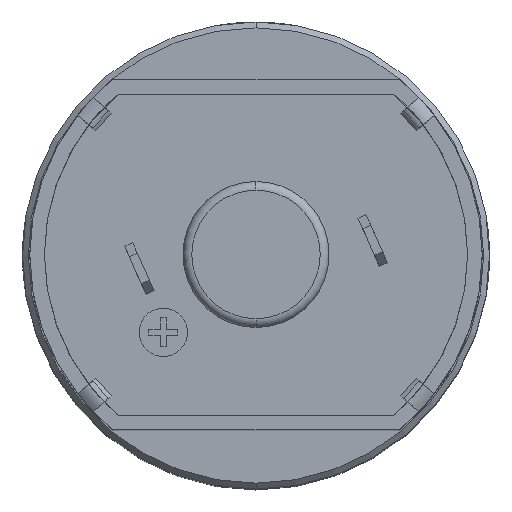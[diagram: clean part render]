
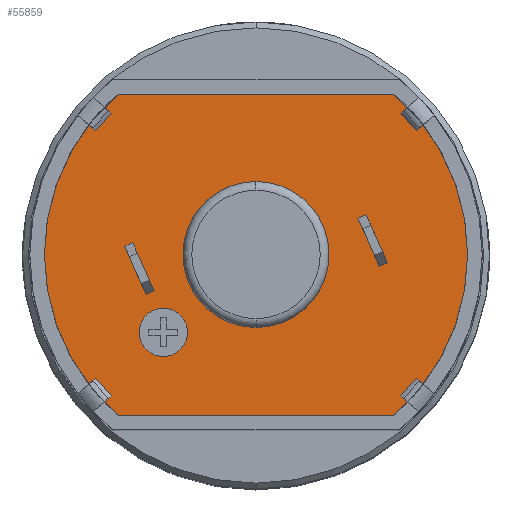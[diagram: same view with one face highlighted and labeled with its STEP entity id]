
A CAD part, top view. The second image highlights one B-rep face of the part: STEP entity #55859.
In plain terms, the highlighted planar face has unit normal (0, 0, 1) as drawn and (0, 1, 0) by its records, which use the part's own axes.
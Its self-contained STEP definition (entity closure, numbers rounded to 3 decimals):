
#238 = CARTESIAN_POINT ( 'NONE',  ( -4.5, 0.5, -0.278 ) ) ;
#1867 = EDGE_CURVE ( 'NONE', #37556, #107896, #15914, .T. ) ;
#1900 = VECTOR ( 'NONE', #14220, 1000. ) ;
#2009 = ORIENTED_EDGE ( 'NONE', *, *, #28465, .F. ) ;
#3257 = ORIENTED_EDGE ( 'NONE', *, *, #21699, .F. ) ;
#3622 = VERTEX_POINT ( 'NONE', #9445 ) ;
#4152 = EDGE_CURVE ( 'NONE', #52164, #105886, #51375, .T. ) ;
#5754 = EDGE_CURVE ( 'NONE', #104323, #25168, #31706, .T. ) ;
#6204 = ORIENTED_EDGE ( 'NONE', *, *, #85957, .F. ) ;
#9056 = FACE_BOUND ( 'NONE', #31693, .T. ) ;
#9247 = LINE ( 'NONE', #238, #80210 ) ;
#9283 = VECTOR ( 'NONE', #41483, 1000. ) ;
#9323 = CARTESIAN_POINT ( 'NONE',  ( -4.226, 0.5, -0.4 ) ) ;
#9445 = CARTESIAN_POINT ( 'NONE',  ( 4.226, 0.5, 0.4 ) ) ;
#13327 = AXIS2_PLACEMENT_3D ( 'NONE', #84022, #51648, #77731 ) ;
#14006 = VERTEX_POINT ( 'NONE', #70603 ) ;
#14220 = DIRECTION ( 'NONE',  ( 0.914, 0., -0.407 ) ) ;
#15439 = DIRECTION ( 'NONE',  ( -0.914, 0., 0.407 ) ) ;
#15615 = VERTEX_POINT ( 'NONE', #39598 ) ;
#15630 = CARTESIAN_POINT ( 'NONE',  ( -3.768, 0.5, 1.366 ) ) ;
#15914 = LINE ( 'NONE', #92412, #43141 ) ;
#16413 = ORIENTED_EDGE ( 'NONE', *, *, #39210, .F. ) ;
#17263 = LINE ( 'NONE', #67143, #55213 ) ;
#20281 = CIRCLE ( 'NONE', #74537, 0.83 ) ;
#20910 = CIRCLE ( 'NONE', #75199, 0.83 ) ;
#21331 = ORIENTED_EDGE ( 'NONE', *, *, #23597, .F. ) ;
#21699 = EDGE_CURVE ( 'NONE', #43101, #104323, #49429, .T. ) ;
#22792 = CARTESIAN_POINT ( 'NONE',  ( 3.768, 0.5, -1.366 ) ) ;
#23550 = CARTESIAN_POINT ( 'NONE',  ( -3.175, 0.5, 1.834 ) ) ;
#23597 = EDGE_CURVE ( 'NONE', #25168, #15615, #9247, .T. ) ;
#25168 = VERTEX_POINT ( 'NONE', #104868 ) ;
#25620 = CARTESIAN_POINT ( 'NONE',  ( -3.494, 0.5, 1.244 ) ) ;
#25663 = DIRECTION ( 'NONE',  ( 0.407, 0., 0.914 ) ) ;
#25735 = CARTESIAN_POINT ( 'NONE',  ( 4.5, 0.5, 0.278 ) ) ;
#26056 = EDGE_CURVE ( 'NONE', #105886, #37556, #110976, .T. ) ;
#26506 = ORIENTED_EDGE ( 'NONE', *, *, #95951, .F. ) ;
#26668 = CARTESIAN_POINT ( 'NONE',  ( 0., 0.5, 0. ) ) ;
#27212 = ORIENTED_EDGE ( 'NONE', *, *, #109010, .F. ) ;
#27749 = DIRECTION ( 'NONE',  ( 0., 0., 1. ) ) ;
#28465 = EDGE_CURVE ( 'NONE', #14006, #57405, #20281, .T. ) ;
#29356 = DIRECTION ( 'NONE',  ( 0., 0., 1. ) ) ;
#29841 = EDGE_CURVE ( 'NONE', #107896, #52164, #105507, .T. ) ;
#31122 = ORIENTED_EDGE ( 'NONE', *, *, #87055, .F. ) ;
#31693 = EDGE_LOOP ( 'NONE', ( #73619, #16413, #27212, #26506 ) ) ;
#31706 = LINE ( 'NONE', #74781, #73966 ) ;
#31712 = VECTOR ( 'NONE', #42888, 1000. ) ;
#34424 = ORIENTED_EDGE ( 'NONE', *, *, #4152, .T. ) ;
#34982 = VECTOR ( 'NONE', #50136, 1000. ) ;
#35042 = DIRECTION ( 'NONE',  ( 0., 0., 1. ) ) ;
#35879 = CARTESIAN_POINT ( 'NONE',  ( -4.724, 0.5, 5.5 ) ) ;
#37556 = VERTEX_POINT ( 'NONE', #102216 ) ;
#38395 = EDGE_LOOP ( 'NONE', ( #44669, #34424, #74847, #110091 ) ) ;
#38827 = LINE ( 'NONE', #48998, #95508 ) ;
#38924 = VECTOR ( 'NONE', #15439, 1000. ) ;
#39210 = EDGE_CURVE ( 'NONE', #45236, #108360, #48806, .T. ) ;
#39598 = CARTESIAN_POINT ( 'NONE',  ( -3.768, 0.5, 1.366 ) ) ;
#40424 = AXIS2_PLACEMENT_3D ( 'NONE', #26668, #96902, #71944 ) ;
#41483 = DIRECTION ( 'NONE',  ( -0.407, 0., -0.914 ) ) ;
#42029 = DIRECTION ( 'NONE',  ( 0., 1., 0. ) ) ;
#42888 = DIRECTION ( 'NONE',  ( 1., 0., 0. ) ) ;
#43101 = VERTEX_POINT ( 'NONE', #74304 ) ;
#43141 = VECTOR ( 'NONE', #51559, 1000. ) ;
#44669 = ORIENTED_EDGE ( 'NONE', *, *, #29841, .T. ) ;
#44703 = FACE_OUTER_BOUND ( 'NONE', #38395, .T. ) ;
#45236 = VERTEX_POINT ( 'NONE', #22792 ) ;
#45933 = CARTESIAN_POINT ( 'NONE',  ( -4.724, 0.5, -5.5 ) ) ;
#46331 = DIRECTION ( 'NONE',  ( 0., 1., 0. ) ) ;
#47484 = AXIS2_PLACEMENT_3D ( 'NONE', #61667, #46331, #54267 ) ;
#48112 = ORIENTED_EDGE ( 'NONE', *, *, #63544, .F. ) ;
#48501 = VERTEX_POINT ( 'NONE', #90552 ) ;
#48806 = LINE ( 'NONE', #65886, #38924 ) ;
#48998 = CARTESIAN_POINT ( 'NONE',  ( 4.5, 0.5, 0.278 ) ) ;
#49429 = LINE ( 'NONE', #25620, #9283 ) ;
#50136 = DIRECTION ( 'NONE',  ( 0.914, 0., -0.407 ) ) ;
#50964 = CARTESIAN_POINT ( 'NONE',  ( 0., 0.5, 2.5 ) ) ;
#51375 = LINE ( 'NONE', #86021, #31712 ) ;
#51559 = DIRECTION ( 'NONE',  ( -1., 0., 0. ) ) ;
#51574 = CARTESIAN_POINT ( 'NONE',  ( -3.175, 0.5, 2.664 ) ) ;
#51648 = DIRECTION ( 'NONE',  ( 0., 1., 0. ) ) ;
#52164 = VERTEX_POINT ( 'NONE', #35879 ) ;
#54267 = DIRECTION ( 'NONE',  ( 0., 0., 1. ) ) ;
#55213 = VECTOR ( 'NONE', #110707, 1000. ) ;
#55859 = ADVANCED_FACE ( 'NONE', ( #60650, #95187, #44703, #9056, #78150 ), #59500, .T. ) ;
#57405 = VERTEX_POINT ( 'NONE', #23550 ) ;
#59500 = PLANE ( 'NONE',  #62345 ) ;
#60067 = CARTESIAN_POINT ( 'NONE',  ( 0., 0.5, 0. ) ) ;
#60650 = FACE_BOUND ( 'NONE', #65850, .T. ) ;
#61667 = CARTESIAN_POINT ( 'NONE',  ( 0., 0.5, 0. ) ) ;
#62345 = AXIS2_PLACEMENT_3D ( 'NONE', #60067, #96269, #35042 ) ;
#63242 = EDGE_LOOP ( 'NONE', ( #6204, #48112 ) ) ;
#63544 = EDGE_CURVE ( 'NONE', #75004, #48501, #101792, .T. ) ;
#65850 = EDGE_LOOP ( 'NONE', ( #73178, #2009 ) ) ;
#65886 = CARTESIAN_POINT ( 'NONE',  ( 3.768, 0.5, -1.366 ) ) ;
#67143 = CARTESIAN_POINT ( 'NONE',  ( 3.494, 0.5, -1.244 ) ) ;
#67418 = DIRECTION ( 'NONE',  ( -0.914, 0., 0.407 ) ) ;
#69132 = EDGE_CURVE ( 'NONE', #57405, #14006, #20910, .T. ) ;
#70227 = DIRECTION ( 'NONE',  ( 0., 1., 0. ) ) ;
#70603 = CARTESIAN_POINT ( 'NONE',  ( -3.175, 0.5, 3.494 ) ) ;
#71933 = DIRECTION ( 'NONE',  ( 0., 1., 0. ) ) ;
#71944 = DIRECTION ( 'NONE',  ( 0., 0., 1. ) ) ;
#73178 = ORIENTED_EDGE ( 'NONE', *, *, #69132, .F. ) ;
#73619 = ORIENTED_EDGE ( 'NONE', *, *, #80052, .F. ) ;
#73966 = VECTOR ( 'NONE', #67418, 1000. ) ;
#74304 = CARTESIAN_POINT ( 'NONE',  ( -3.494, 0.5, 1.244 ) ) ;
#74537 = AXIS2_PLACEMENT_3D ( 'NONE', #51574, #71933, #27749 ) ;
#74781 = CARTESIAN_POINT ( 'NONE',  ( -4.226, 0.5, -0.4 ) ) ;
#74847 = ORIENTED_EDGE ( 'NONE', *, *, #26056, .T. ) ;
#75004 = VERTEX_POINT ( 'NONE', #50964 ) ;
#75199 = AXIS2_PLACEMENT_3D ( 'NONE', #105867, #70227, #29356 ) ;
#76232 = CARTESIAN_POINT ( 'NONE',  ( 4.724, 0.5, 5.5 ) ) ;
#77731 = DIRECTION ( 'NONE',  ( 0., 0., 1. ) ) ;
#78150 = FACE_BOUND ( 'NONE', #84889, .T. ) ;
#80052 = EDGE_CURVE ( 'NONE', #108360, #3622, #17263, .T. ) ;
#80210 = VECTOR ( 'NONE', #25663, 1000. ) ;
#83298 = CARTESIAN_POINT ( 'NONE',  ( 4.226, 0.5, 0.4 ) ) ;
#84022 = CARTESIAN_POINT ( 'NONE',  ( 0., 0.5, 0. ) ) ;
#84889 = EDGE_LOOP ( 'NONE', ( #21331, #108252, #3257, #31122 ) ) ;
#85957 = EDGE_CURVE ( 'NONE', #48501, #75004, #103784, .T. ) ;
#86021 = CARTESIAN_POINT ( 'NONE',  ( -4.724, 0.5, 5.5 ) ) ;
#87055 = EDGE_CURVE ( 'NONE', #15615, #43101, #92673, .T. ) ;
#90552 = CARTESIAN_POINT ( 'NONE',  ( 0., 0.5, -2.5 ) ) ;
#91566 = DIRECTION ( 'NONE',  ( -0.407, 0., -0.914 ) ) ;
#91674 = CARTESIAN_POINT ( 'NONE',  ( 3.494, 0.5, -1.244 ) ) ;
#92412 = CARTESIAN_POINT ( 'NONE',  ( -4.724, 0.5, -5.5 ) ) ;
#92673 = LINE ( 'NONE', #15630, #34982 ) ;
#92921 = AXIS2_PLACEMENT_3D ( 'NONE', #103238, #42029, #93653 ) ;
#93653 = DIRECTION ( 'NONE',  ( 0., 0., 1. ) ) ;
#95187 = FACE_BOUND ( 'NONE', #63242, .T. ) ;
#95508 = VECTOR ( 'NONE', #91566, 1000. ) ;
#95951 = EDGE_CURVE ( 'NONE', #3622, #101218, #100864, .T. ) ;
#96269 = DIRECTION ( 'NONE',  ( 0., 1., 0. ) ) ;
#96902 = DIRECTION ( 'NONE',  ( 0., 1., 0. ) ) ;
#100864 = LINE ( 'NONE', #83298, #1900 ) ;
#101218 = VERTEX_POINT ( 'NONE', #25735 ) ;
#101792 = CIRCLE ( 'NONE', #47484, 2.5 ) ;
#102216 = CARTESIAN_POINT ( 'NONE',  ( 4.724, 0.5, -5.5 ) ) ;
#103238 = CARTESIAN_POINT ( 'NONE',  ( 0., 0.5, 0. ) ) ;
#103784 = CIRCLE ( 'NONE', #40424, 2.5 ) ;
#104323 = VERTEX_POINT ( 'NONE', #9323 ) ;
#104868 = CARTESIAN_POINT ( 'NONE',  ( -4.5, 0.5, -0.278 ) ) ;
#105507 = CIRCLE ( 'NONE', #92921, 7.25 ) ;
#105867 = CARTESIAN_POINT ( 'NONE',  ( -3.175, 0.5, 2.664 ) ) ;
#105886 = VERTEX_POINT ( 'NONE', #76232 ) ;
#107896 = VERTEX_POINT ( 'NONE', #45933 ) ;
#108252 = ORIENTED_EDGE ( 'NONE', *, *, #5754, .F. ) ;
#108360 = VERTEX_POINT ( 'NONE', #91674 ) ;
#109010 = EDGE_CURVE ( 'NONE', #101218, #45236, #38827, .T. ) ;
#110091 = ORIENTED_EDGE ( 'NONE', *, *, #1867, .T. ) ;
#110707 = DIRECTION ( 'NONE',  ( 0.407, 0., 0.914 ) ) ;
#110976 = CIRCLE ( 'NONE', #13327, 7.25 ) ;
